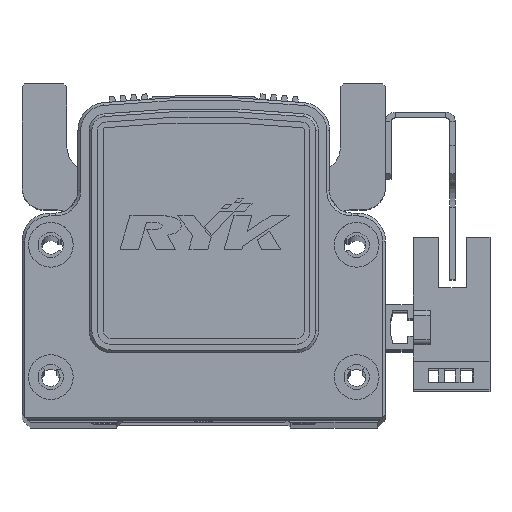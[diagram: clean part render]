
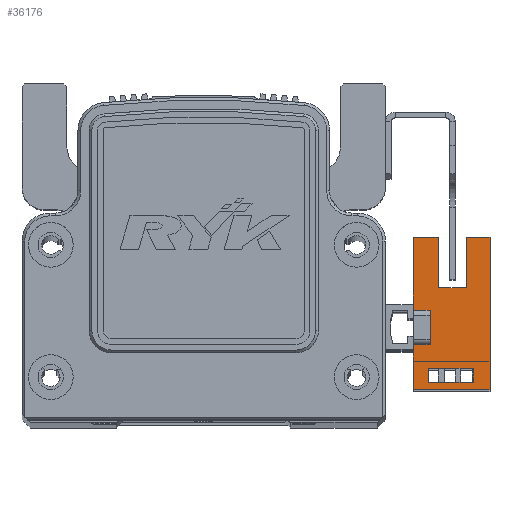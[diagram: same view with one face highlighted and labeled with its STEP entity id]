
A CAD part, top view. The second image highlights one B-rep face of the part: STEP entity #36176.
In plain terms, the highlighted planar face has unit normal (0, 0, 1) as drawn and (1, 0, 0) by its records, which use the part's own axes.
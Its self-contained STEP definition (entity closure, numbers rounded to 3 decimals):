
#7181 = EDGE_LOOP ( 'NONE', ( #20960, #20939, #20928, #20971 ) ) ;
#7218 = EDGE_LOOP ( 'NONE', ( #20918, #20926, #20880, #20983, #20800, #20899, #20920, #20887, #20813, #20863, #20948, #20849 ) ) ;
#13483 = DIRECTION ( 'NONE',  ( 0., 1., 0. ) ) ;
#13506 = CARTESIAN_POINT ( 'NONE',  ( 3.2, 7.1, -6.5 ) ) ;
#13508 = DIRECTION ( 'NONE',  ( 0., 0., 1. ) ) ;
#13514 = CARTESIAN_POINT ( 'NONE',  ( 3.2, 16.1, -10.7 ) ) ;
#13522 = DIRECTION ( 'NONE',  ( 0., 1., 0. ) ) ;
#13532 = CARTESIAN_POINT ( 'NONE',  ( 3.2, -3.1, 3. ) ) ;
#13548 = CARTESIAN_POINT ( 'NONE',  ( 3.2, 16.1, -10.7 ) ) ;
#13549 = CARTESIAN_POINT ( 'NONE',  ( 3.2, 16.1, -7.7 ) ) ;
#13551 = CARTESIAN_POINT ( 'NONE',  ( 3.2, -9.83, -10.7 ) ) ;
#13554 = DIRECTION ( 'NONE',  ( 0., 0., 1. ) ) ;
#13555 = CARTESIAN_POINT ( 'NONE',  ( 3.2, 25.1, -1.5 ) ) ;
#13558 = DIRECTION ( 'NONE',  ( 0., 0., -1. ) ) ;
#13564 = DIRECTION ( 'NONE',  ( 0., 1., 0. ) ) ;
#13565 = DIRECTION ( 'NONE',  ( 0., 0., -1. ) ) ;
#13578 = DIRECTION ( 'NONE',  ( 0., 1., 0. ) ) ;
#13598 = CARTESIAN_POINT ( 'NONE',  ( 3.2, 0., 0. ) ) ;
#13602 = CARTESIAN_POINT ( 'NONE',  ( 3.2, -11.1, 3. ) ) ;
#13604 = DIRECTION ( 'NONE',  ( 0., 0., 1. ) ) ;
#13614 = CARTESIAN_POINT ( 'NONE',  ( 3.2, 3.1, 3. ) ) ;
#13623 = CARTESIAN_POINT ( 'NONE',  ( 3.2, -7.33, -10.7 ) ) ;
#13624 = DIRECTION ( 'NONE',  ( 0., 0., 1. ) ) ;
#13630 = DIRECTION ( 'NONE',  ( 0., -1., 0. ) ) ;
#13639 = CARTESIAN_POINT ( 'NONE',  ( 3.2, 25.1, -6.5 ) ) ;
#13651 = DIRECTION ( 'NONE',  ( 0., 0., 1. ) ) ;
#13666 = DIRECTION ( 'NONE',  ( 0., -1., 0. ) ) ;
#13703 = CARTESIAN_POINT ( 'NONE',  ( 3.2, 16.1, 0.3 ) ) ;
#13864 = DIRECTION ( 'NONE',  ( 0., 0., 1. ) ) ;
#13891 = CARTESIAN_POINT ( 'NONE',  ( 3.2, 16.1, -10.7 ) ) ;
#14956 = AXIS2_PLACEMENT_3D ( 'NONE', #26816, #26829, #26801 ) ;
#16931 = FACE_OUTER_BOUND ( 'NONE', #7218, .T. ) ;
#16946 = FACE_BOUND ( 'NONE', #7181, .T. ) ;
#18146 = CARTESIAN_POINT ( 'NONE',  ( 3.2, 16.1, 3. ) ) ;
#18595 = DIRECTION ( 'NONE',  ( 0., 1., 0. ) ) ;
#18695 = DIRECTION ( 'NONE',  ( 0., 1., 0. ) ) ;
#18707 = CARTESIAN_POINT ( 'NONE',  ( 3.2, 16.1, 3. ) ) ;
#20800 = ORIENTED_EDGE ( 'NONE', *, *, #30890, .F. ) ;
#20813 = ORIENTED_EDGE ( 'NONE', *, *, #30839, .F. ) ;
#20849 = ORIENTED_EDGE ( 'NONE', *, *, #30899, .T. ) ;
#20863 = ORIENTED_EDGE ( 'NONE', *, *, #31092, .F. ) ;
#20880 = ORIENTED_EDGE ( 'NONE', *, *, #31037, .T. ) ;
#20887 = ORIENTED_EDGE ( 'NONE', *, *, #31021, .F. ) ;
#20899 = ORIENTED_EDGE ( 'NONE', *, *, #31128, .F. ) ;
#20918 = ORIENTED_EDGE ( 'NONE', *, *, #31110, .T. ) ;
#20920 = ORIENTED_EDGE ( 'NONE', *, *, #31080, .F. ) ;
#20926 = ORIENTED_EDGE ( 'NONE', *, *, #30979, .T. ) ;
#20928 = ORIENTED_EDGE ( 'NONE', *, *, #31029, .F. ) ;
#20939 = ORIENTED_EDGE ( 'NONE', *, *, #31132, .F. ) ;
#20948 = ORIENTED_EDGE ( 'NONE', *, *, #30986, .T. ) ;
#20960 = ORIENTED_EDGE ( 'NONE', *, *, #31178, .F. ) ;
#20971 = ORIENTED_EDGE ( 'NONE', *, *, #30984, .F. ) ;
#20983 = ORIENTED_EDGE ( 'NONE', *, *, #31040, .T. ) ;
#23775 = CARTESIAN_POINT ( 'NONE',  ( 3.2, -11.1, 3. ) ) ;
#23797 = CARTESIAN_POINT ( 'NONE',  ( 3.2, 3.1, 3. ) ) ;
#23808 = CARTESIAN_POINT ( 'NONE',  ( 3.2, -3.1, 3. ) ) ;
#23810 = CARTESIAN_POINT ( 'NONE',  ( 3.2, 7.1, -1.5 ) ) ;
#23812 = CARTESIAN_POINT ( 'NONE',  ( 3.2, 16.1, -1.5 ) ) ;
#23815 = CARTESIAN_POINT ( 'NONE',  ( 3.2, 16.1, -6.5 ) ) ;
#23818 = CARTESIAN_POINT ( 'NONE',  ( 3.2, 7.1, -6.5 ) ) ;
#23823 = CARTESIAN_POINT ( 'NONE',  ( 3.2, -7.33, 0.3 ) ) ;
#23837 = CARTESIAN_POINT ( 'NONE',  ( 3.2, 3.1, 0. ) ) ;
#23847 = CARTESIAN_POINT ( 'NONE',  ( 3.2, -11.1, -10.7 ) ) ;
#23851 = CARTESIAN_POINT ( 'NONE',  ( 3.2, -9.83, -7.7 ) ) ;
#23853 = CARTESIAN_POINT ( 'NONE',  ( 3.2, -9.83, 0.3 ) ) ;
#23883 = CARTESIAN_POINT ( 'NONE',  ( 3.2, -7.33, -7.7 ) ) ;
#23887 = CARTESIAN_POINT ( 'NONE',  ( 3.2, -3.1, 0. ) ) ;
#24548 = CARTESIAN_POINT ( 'NONE',  ( 3.2, 16.1, -10.7 ) ) ;
#24556 = CARTESIAN_POINT ( 'NONE',  ( 3.2, 16.1, 3. ) ) ;
#25751 = VECTOR ( 'NONE', #18695, 1000. ) ;
#25776 = LINE ( 'NONE', #18146, #25777 ) ;
#25777 = VECTOR ( 'NONE', #18595, 1000. ) ;
#25795 = LINE ( 'NONE', #18707, #25751 ) ;
#25850 = LINE ( 'NONE', #13891, #25930 ) ;
#25930 = VECTOR ( 'NONE', #13864, 1000. ) ;
#25969 = VECTOR ( 'NONE', #13558, 1000. ) ;
#25973 = LINE ( 'NONE', #13514, #26073 ) ;
#25996 = LINE ( 'NONE', #13555, #26004 ) ;
#25997 = LINE ( 'NONE', #13548, #26014 ) ;
#26004 = VECTOR ( 'NONE', #13522, 1000. ) ;
#26014 = VECTOR ( 'NONE', #13554, 1000. ) ;
#26020 = VECTOR ( 'NONE', #13508, 1000. ) ;
#26029 = LINE ( 'NONE', #13532, #26079 ) ;
#26031 = LINE ( 'NONE', #13551, #25969 ) ;
#26033 = LINE ( 'NONE', #13506, #26020 ) ;
#26038 = LINE ( 'NONE', #13549, #26062 ) ;
#26062 = VECTOR ( 'NONE', #13564, 1000. ) ;
#26073 = VECTOR ( 'NONE', #13483, 1000. ) ;
#26079 = VECTOR ( 'NONE', #13565, 1000. ) ;
#26097 = LINE ( 'NONE', #13602, #26145 ) ;
#26112 = VECTOR ( 'NONE', #13578, 1000. ) ;
#26114 = LINE ( 'NONE', #13623, #26169 ) ;
#26138 = LINE ( 'NONE', #13614, #26190 ) ;
#26145 = VECTOR ( 'NONE', #13604, 1000. ) ;
#26168 = VECTOR ( 'NONE', #13630, 1000. ) ;
#26169 = VECTOR ( 'NONE', #13651, 1000. ) ;
#26188 = LINE ( 'NONE', #13639, #26168 ) ;
#26190 = VECTOR ( 'NONE', #13624, 1000. ) ;
#26202 = LINE ( 'NONE', #13598, #26112 ) ;
#26310 = LINE ( 'NONE', #13703, #26318 ) ;
#26318 = VECTOR ( 'NONE', #13666, 1000. ) ;
#26799 = PLANE ( 'NONE',  #14956 ) ;
#26801 = DIRECTION ( 'NONE',  ( 0., 1., 0. ) ) ;
#26816 = CARTESIAN_POINT ( 'NONE',  ( 3.2, 16.1, -10.7 ) ) ;
#26829 = DIRECTION ( 'NONE',  ( 1., 0., 0. ) ) ;
#30839 = EDGE_CURVE ( 'NONE', #34907, #34903, #25795, .T. ) ;
#30890 = EDGE_CURVE ( 'NONE', #34952, #35769, #25776, .T. ) ;
#30899 = EDGE_CURVE ( 'NONE', #35772, #34917, #25850, .T. ) ;
#30979 = EDGE_CURVE ( 'NONE', #34954, #34910, #26033, .T. ) ;
#30984 = EDGE_CURVE ( 'NONE', #34970, #34983, #26031, .T. ) ;
#30986 = EDGE_CURVE ( 'NONE', #34969, #35772, #25973, .T. ) ;
#31021 = EDGE_CURVE ( 'NONE', #34903, #34997, #26029, .T. ) ;
#31029 = EDGE_CURVE ( 'NONE', #34983, #34968, #26038, .T. ) ;
#31037 = EDGE_CURVE ( 'NONE', #34910, #34937, #25996, .T. ) ;
#31040 = EDGE_CURVE ( 'NONE', #34937, #35769, #25997, .T. ) ;
#31080 = EDGE_CURVE ( 'NONE', #34997, #34978, #26202, .T. ) ;
#31092 = EDGE_CURVE ( 'NONE', #34969, #34907, #26097, .T. ) ;
#31110 = EDGE_CURVE ( 'NONE', #34917, #34954, #26188, .T. ) ;
#31128 = EDGE_CURVE ( 'NONE', #34978, #34952, #26138, .T. ) ;
#31132 = EDGE_CURVE ( 'NONE', #34968, #34909, #26114, .T. ) ;
#31178 = EDGE_CURVE ( 'NONE', #34909, #34970, #26310, .T. ) ;
#34903 = VERTEX_POINT ( 'NONE', #23808 ) ;
#34907 = VERTEX_POINT ( 'NONE', #23775 ) ;
#34909 = VERTEX_POINT ( 'NONE', #23823 ) ;
#34910 = VERTEX_POINT ( 'NONE', #23810 ) ;
#34917 = VERTEX_POINT ( 'NONE', #23815 ) ;
#34937 = VERTEX_POINT ( 'NONE', #23812 ) ;
#34952 = VERTEX_POINT ( 'NONE', #23797 ) ;
#34954 = VERTEX_POINT ( 'NONE', #23818 ) ;
#34968 = VERTEX_POINT ( 'NONE', #23883 ) ;
#34969 = VERTEX_POINT ( 'NONE', #23847 ) ;
#34970 = VERTEX_POINT ( 'NONE', #23853 ) ;
#34978 = VERTEX_POINT ( 'NONE', #23837 ) ;
#34983 = VERTEX_POINT ( 'NONE', #23851 ) ;
#34997 = VERTEX_POINT ( 'NONE', #23887 ) ;
#35769 = VERTEX_POINT ( 'NONE', #24556 ) ;
#35772 = VERTEX_POINT ( 'NONE', #24548 ) ;
#36176 = ADVANCED_FACE ( 'NONE', ( #16931, #16946 ), #26799, .T. ) ;
